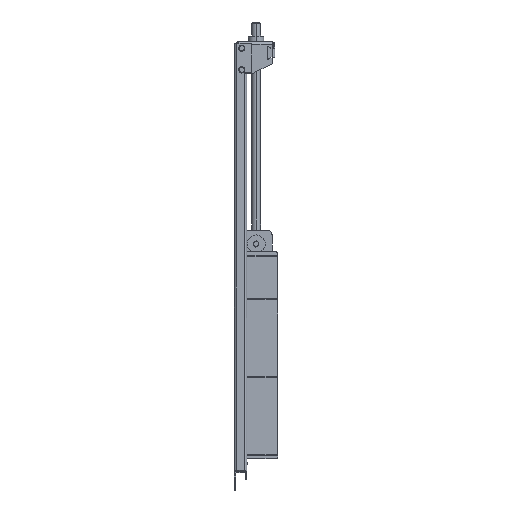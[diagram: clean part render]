
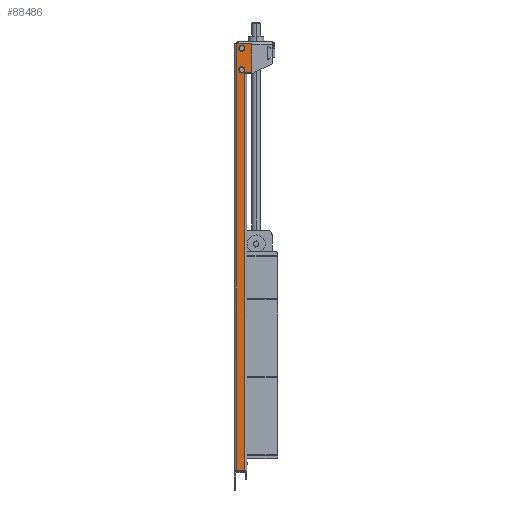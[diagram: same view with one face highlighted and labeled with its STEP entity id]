
A CAD part, left-side view. The second image highlights one B-rep face of the part: STEP entity #88486.
In plain terms, the highlighted planar face has unit normal (-1, 0, 0).
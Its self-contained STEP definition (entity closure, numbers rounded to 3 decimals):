
#2249 = ORIENTED_EDGE ( 'NONE', *, *, #92129, .F. ) ;
#3006 = EDGE_CURVE ( 'NONE', #34837, #3935, #82481, .T. ) ;
#3188 = DIRECTION ( 'NONE',  ( 1., 0., 0. ) ) ;
#3605 = CARTESIAN_POINT ( 'NONE',  ( -390., -56., 1371. ) ) ;
#3935 = VERTEX_POINT ( 'NONE', #41551 ) ;
#4127 = VERTEX_POINT ( 'NONE', #7623 ) ;
#4511 = CARTESIAN_POINT ( 'NONE',  ( -390., -29.75, 1360. ) ) ;
#5791 = FACE_BOUND ( 'NONE', #35456, .T. ) ;
#7167 = ORIENTED_EDGE ( 'NONE', *, *, #3006, .F. ) ;
#7623 = CARTESIAN_POINT ( 'NONE',  ( -390., -32., 1281. ) ) ;
#7949 = DIRECTION ( 'NONE',  ( 0., 1., 0. ) ) ;
#8561 = CARTESIAN_POINT ( 'NONE',  ( -390., -24., 1360. ) ) ;
#9609 = VERTEX_POINT ( 'NONE', #4511 ) ;
#10152 = DIRECTION ( 'NONE',  ( 1., 0., 0. ) ) ;
#10394 = LINE ( 'NONE', #68557, #83783 ) ;
#11255 = ORIENTED_EDGE ( 'NONE', *, *, #47465, .F. ) ;
#11987 = DIRECTION ( 'NONE',  ( 0., 1., 0. ) ) ;
#13527 = EDGE_LOOP ( 'NONE', ( #28307, #123295 ) ) ;
#15119 = LINE ( 'NONE', #60026, #87100 ) ;
#15164 = DIRECTION ( 'NONE',  ( 0., 0., -1. ) ) ;
#16754 = VERTEX_POINT ( 'NONE', #112348 ) ;
#17801 = FACE_OUTER_BOUND ( 'NONE', #20787, .T. ) ;
#18035 = CARTESIAN_POINT ( 'NONE',  ( -390., -29.75, 1290. ) ) ;
#18057 = AXIS2_PLACEMENT_3D ( 'NONE', #105879, #29616, #67769 ) ;
#19291 = CARTESIAN_POINT ( 'NONE',  ( -390., -24., 1290. ) ) ;
#20787 = EDGE_LOOP ( 'NONE', ( #2249, #77529, #41437, #7167, #11255, #68067, #31439, #34918, #94569 ) ) ;
#21002 = AXIS2_PLACEMENT_3D ( 'NONE', #8561, #48684, #104407 ) ;
#22931 = LINE ( 'NONE', #53944, #82935 ) ;
#22989 = DIRECTION ( 'NONE',  ( 1., 0., 0. ) ) ;
#24539 = CIRCLE ( 'NONE', #21002, 5.75 ) ;
#28307 = ORIENTED_EDGE ( 'NONE', *, *, #63322, .T. ) ;
#28321 = CARTESIAN_POINT ( 'NONE',  ( -390., -8., 1375. ) ) ;
#29616 = DIRECTION ( 'NONE',  ( 1., 0., 0. ) ) ;
#31374 = VERTEX_POINT ( 'NONE', #78309 ) ;
#31439 = ORIENTED_EDGE ( 'NONE', *, *, #36334, .F. ) ;
#33957 = ORIENTED_EDGE ( 'NONE', *, *, #80377, .T. ) ;
#34837 = VERTEX_POINT ( 'NONE', #80854 ) ;
#34918 = ORIENTED_EDGE ( 'NONE', *, *, #106858, .F. ) ;
#35008 = CARTESIAN_POINT ( 'NONE',  ( -390., -8., 687.5 ) ) ;
#35154 = DIRECTION ( 'NONE',  ( 1., 0., 0. ) ) ;
#35456 = EDGE_LOOP ( 'NONE', ( #33957, #62245 ) ) ;
#36334 = EDGE_CURVE ( 'NONE', #111218, #123909, #39708, .T. ) ;
#38239 = AXIS2_PLACEMENT_3D ( 'NONE', #19291, #10152, #86299 ) ;
#39708 = LINE ( 'NONE', #103366, #68224 ) ;
#40029 = CARTESIAN_POINT ( 'NONE',  ( -390., -32., 1281. ) ) ;
#41323 = CIRCLE ( 'NONE', #71714, 5.75 ) ;
#41437 = ORIENTED_EDGE ( 'NONE', *, *, #62056, .F. ) ;
#41551 = CARTESIAN_POINT ( 'NONE',  ( -390., -52., 1281. ) ) ;
#44989 = CIRCLE ( 'NONE', #89961, 4. ) ;
#47465 = EDGE_CURVE ( 'NONE', #96163, #34837, #51774, .T. ) ;
#48684 = DIRECTION ( 'NONE',  ( 1., 0., 0. ) ) ;
#49088 = LINE ( 'NONE', #35008, #70128 ) ;
#49943 = EDGE_CURVE ( 'NONE', #123909, #96163, #44989, .T. ) ;
#50525 = DIRECTION ( 'NONE',  ( 0., 0., -1. ) ) ;
#51774 = LINE ( 'NONE', #52428, #122205 ) ;
#52200 = CIRCLE ( 'NONE', #61598, 5.75 ) ;
#52428 = CARTESIAN_POINT ( 'NONE',  ( -390., -56., 1281. ) ) ;
#53944 = CARTESIAN_POINT ( 'NONE',  ( -390., -32., 698.109 ) ) ;
#54433 = PLANE ( 'NONE',  #102292 ) ;
#56307 = EDGE_CURVE ( 'NONE', #9609, #58791, #41323, .T. ) ;
#56794 = FACE_BOUND ( 'NONE', #13527, .T. ) ;
#58791 = VERTEX_POINT ( 'NONE', #99657 ) ;
#60026 = CARTESIAN_POINT ( 'NONE',  ( -390., -12.529, 3. ) ) ;
#61192 = DIRECTION ( 'NONE',  ( 0., 1., 0. ) ) ;
#61598 = AXIS2_PLACEMENT_3D ( 'NONE', #118548, #22989, #61192 ) ;
#62056 = EDGE_CURVE ( 'NONE', #3935, #4127, #82511, .T. ) ;
#62245 = ORIENTED_EDGE ( 'NONE', *, *, #56307, .T. ) ;
#63322 = EDGE_CURVE ( 'NONE', #31374, #103541, #52200, .T. ) ;
#65323 = DIRECTION ( 'NONE',  ( 0., -1., 0. ) ) ;
#67769 = DIRECTION ( 'NONE',  ( 0., 1., 0. ) ) ;
#68067 = ORIENTED_EDGE ( 'NONE', *, *, #49943, .F. ) ;
#68071 = EDGE_CURVE ( 'NONE', #16754, #115588, #15119, .T. ) ;
#68224 = VECTOR ( 'NONE', #65323, 1000. ) ;
#68557 = CARTESIAN_POINT ( 'NONE',  ( -390., -32., 698.109 ) ) ;
#68962 = DIRECTION ( 'NONE',  ( 0., 1., 0. ) ) ;
#70128 = VECTOR ( 'NONE', #83178, 1000. ) ;
#71714 = AXIS2_PLACEMENT_3D ( 'NONE', #95673, #94841, #104935 ) ;
#72469 = EDGE_CURVE ( 'NONE', #103541, #31374, #108758, .T. ) ;
#74122 = EDGE_CURVE ( 'NONE', #4127, #97323, #10394, .T. ) ;
#74487 = CARTESIAN_POINT ( 'NONE',  ( -390., -21.058, 698.109 ) ) ;
#76911 = CARTESIAN_POINT ( 'NONE',  ( -390., -8., 3. ) ) ;
#77529 = ORIENTED_EDGE ( 'NONE', *, *, #74122, .F. ) ;
#78309 = CARTESIAN_POINT ( 'NONE',  ( -390., -18.25, 1290. ) ) ;
#80377 = EDGE_CURVE ( 'NONE', #58791, #9609, #24539, .T. ) ;
#80854 = CARTESIAN_POINT ( 'NONE',  ( -390., -56., 1285. ) ) ;
#82481 = CIRCLE ( 'NONE', #18057, 4. ) ;
#82511 = LINE ( 'NONE', #40029, #122993 ) ;
#82935 = VECTOR ( 'NONE', #92032, 1000. ) ;
#83178 = DIRECTION ( 'NONE',  ( 0., 0., 1. ) ) ;
#83783 = VECTOR ( 'NONE', #50525, 1000. ) ;
#86299 = DIRECTION ( 'NONE',  ( 0., 1., 0. ) ) ;
#87100 = VECTOR ( 'NONE', #97652, 1000. ) ;
#88486 = ADVANCED_FACE ( 'NONE', ( #5791, #56794, #17801 ), #54433, .F. ) ;
#89961 = AXIS2_PLACEMENT_3D ( 'NONE', #107876, #3188, #11987 ) ;
#92032 = DIRECTION ( 'NONE',  ( 0., 0., -1. ) ) ;
#92129 = EDGE_CURVE ( 'NONE', #97323, #16754, #22931, .T. ) ;
#94569 = ORIENTED_EDGE ( 'NONE', *, *, #68071, .F. ) ;
#94841 = DIRECTION ( 'NONE',  ( 1., 0., 0. ) ) ;
#95673 = CARTESIAN_POINT ( 'NONE',  ( -390., -24., 1360. ) ) ;
#96163 = VERTEX_POINT ( 'NONE', #3605 ) ;
#97323 = VERTEX_POINT ( 'NONE', #103151 ) ;
#97652 = DIRECTION ( 'NONE',  ( 0., 1., 0. ) ) ;
#99657 = CARTESIAN_POINT ( 'NONE',  ( -390., -18.25, 1360. ) ) ;
#102292 = AXIS2_PLACEMENT_3D ( 'NONE', #74487, #35154, #7949 ) ;
#103151 = CARTESIAN_POINT ( 'NONE',  ( -390., -32., 1280. ) ) ;
#103366 = CARTESIAN_POINT ( 'NONE',  ( -390., -36., 1375. ) ) ;
#103541 = VERTEX_POINT ( 'NONE', #18035 ) ;
#104407 = DIRECTION ( 'NONE',  ( 0., 1., 0. ) ) ;
#104935 = DIRECTION ( 'NONE',  ( 0., 1., 0. ) ) ;
#105879 = CARTESIAN_POINT ( 'NONE',  ( -390., -52., 1285. ) ) ;
#106858 = EDGE_CURVE ( 'NONE', #115588, #111218, #49088, .T. ) ;
#107876 = CARTESIAN_POINT ( 'NONE',  ( -390., -52., 1371. ) ) ;
#108758 = CIRCLE ( 'NONE', #38239, 5.75 ) ;
#111218 = VERTEX_POINT ( 'NONE', #28321 ) ;
#112348 = CARTESIAN_POINT ( 'NONE',  ( -390., -32., 3. ) ) ;
#115588 = VERTEX_POINT ( 'NONE', #76911 ) ;
#118548 = CARTESIAN_POINT ( 'NONE',  ( -390., -24., 1290. ) ) ;
#122205 = VECTOR ( 'NONE', #15164, 1000. ) ;
#122993 = VECTOR ( 'NONE', #68962, 1000. ) ;
#123295 = ORIENTED_EDGE ( 'NONE', *, *, #72469, .T. ) ;
#123664 = CARTESIAN_POINT ( 'NONE',  ( -390., -52., 1375. ) ) ;
#123909 = VERTEX_POINT ( 'NONE', #123664 ) ;
